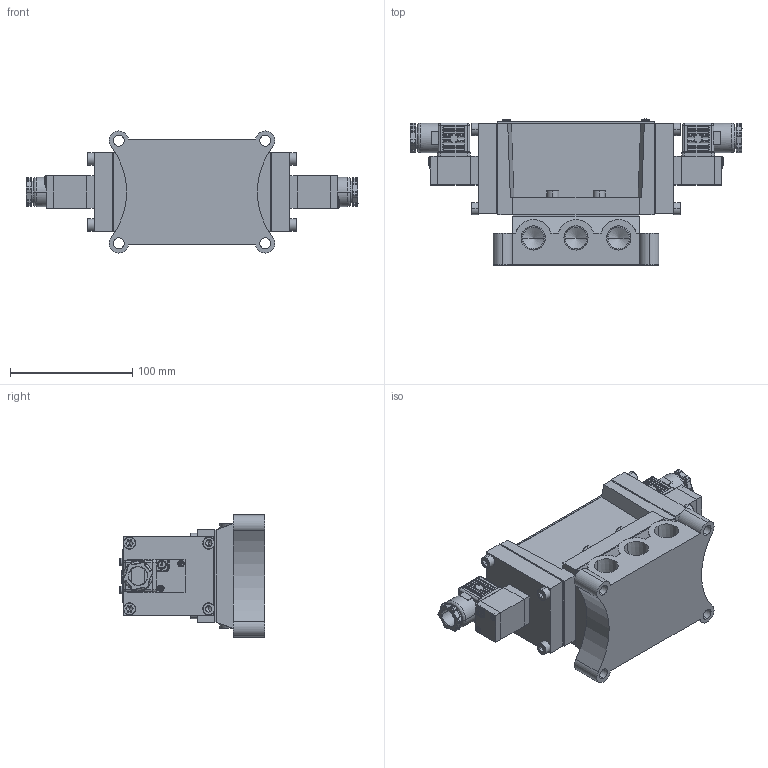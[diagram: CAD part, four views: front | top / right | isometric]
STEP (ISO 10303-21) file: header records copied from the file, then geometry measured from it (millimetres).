
FILE_DESCRIPTION (( 'STEP AP203' ), '1' );
FILE_NAME ('PMD2415#-04-#C#.STEP', '2016-03-09T06:28:31', ( 'Sam Lin' ), ( '' ), 'SwSTEP 2.0', 'SolidWorks 2013', '' );
FILE_SCHEMA (( 'CONFIG_CONTROL_DESIGN' ));
Length unit declared in the file: metre
Products named in the file (16): PMS2306-6(C); PM15-MARK-24; PMS2415-1; PMS2415-7; PMS2415-5; PMS2415-6; PM06-C3-M4_1; PMD2415#-04-#C#; ISO 4762 M6 x 12; PM06-C1_1; PM06-C4_1; PMS2415-2; PM06-C6-M3_1; PMS2415-3; PM06-C5_1; PMS2415-4
Assembly tree (39 placements, depth 2):
  PMD2415#-04-#C#
    PMS2415-1
    PMS2415-2
    PMS2415-3  x2
    PMS2415-4  x2
    PM15-MARK-24
    PMS2415-5
    PM06-C3-M4_1  x4
    ISO 4762 M6 x 12  x12
    PM06-C1_1  x2
    PM06-C4_1  x2
    PM06-C6-M3_1  x4
    PM06-C5_1  x2
    PMS2306-6(C)  x2
    PMS2415-7  x2
    PMS2415-6
Bounding box: 272 x 119.55 x 99.99 mm (x, y, z)
Volume: 1120947.3 mm3; surface area: 216084.3 mm2
Topology: 45 solids, 45 shells, 1581 faces, 3920 edges, 2237 vertices
Faces by surface type: plane 628, cylinder 423, bspline 392, cone 138
Entity records: 29450 total; most frequent: CARTESIAN_POINT 11813, ORIENTED_EDGE 3260, DIRECTION 3028, EDGE_CURVE 1630, AXIS2_PLACEMENT_3D 1107, VERTEX_POINT 1028, LINE 814, VECTOR 814
